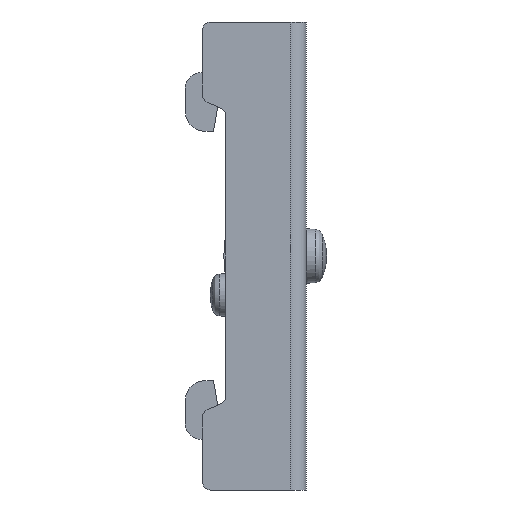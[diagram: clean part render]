
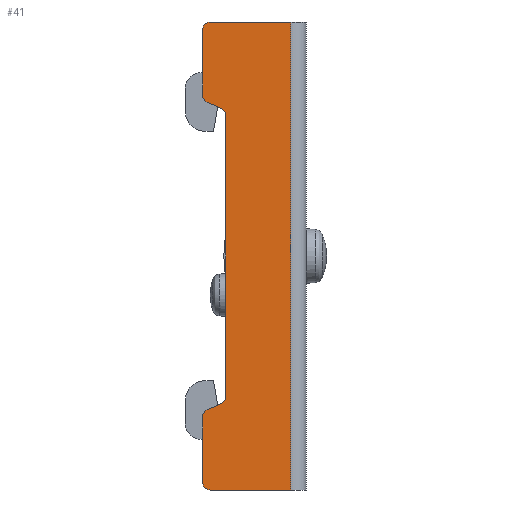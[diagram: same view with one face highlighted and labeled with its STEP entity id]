
A CAD part, left-side view. The second image highlights one B-rep face of the part: STEP entity #41.
In plain terms, the highlighted planar face has unit normal (-1, 0, 0).
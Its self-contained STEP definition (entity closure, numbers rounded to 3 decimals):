
#41=ADVANCED_FACE('',(#183),#182,.T.);
#182=PLANE('',#1499);
#183=FACE_OUTER_BOUND('',#1500,.T.);
#1496=CARTESIAN_POINT('',(-13.,-3.37,-36.));
#1497=DIRECTION('',(-1.,0.,0.));
#1498=DIRECTION('',(0.,-1.,0.));
#1499=AXIS2_PLACEMENT_3D('',#1496,#1497,#1498);
#1500=EDGE_LOOP('',(#2334,#2335,#2336,#2337,#2338,#2339,#2340,#2341,#2342,#2343,#2344,#2345,#2346,#2347));
#2334=ORIENTED_EDGE('',*,*,#3024,.F.);
#2335=ORIENTED_EDGE('',*,*,#3025,.T.);
#2336=ORIENTED_EDGE('',*,*,#3026,.T.);
#2337=ORIENTED_EDGE('',*,*,#3027,.T.);
#2338=ORIENTED_EDGE('',*,*,#3028,.F.);
#2339=ORIENTED_EDGE('',*,*,#3029,.T.);
#2340=ORIENTED_EDGE('',*,*,#3030,.T.);
#2341=ORIENTED_EDGE('',*,*,#3031,.T.);
#2342=ORIENTED_EDGE('',*,*,#3032,.T.);
#2343=ORIENTED_EDGE('',*,*,#3033,.T.);
#2344=ORIENTED_EDGE('',*,*,#3034,.T.);
#2345=ORIENTED_EDGE('',*,*,#3035,.F.);
#2346=ORIENTED_EDGE('',*,*,#3036,.T.);
#2347=ORIENTED_EDGE('',*,*,#3037,.F.);
#3024=EDGE_CURVE('',#3405,#3406,#3407,.T.);
#3025=EDGE_CURVE('',#3405,#3413,#3414,.T.);
#3026=EDGE_CURVE('',#3413,#3420,#3421,.T.);
#3027=EDGE_CURVE('',#3420,#3427,#3428,.T.);
#3028=EDGE_CURVE('',#3434,#3427,#3435,.T.);
#3029=EDGE_CURVE('',#3434,#3441,#3442,.T.);
#3030=EDGE_CURVE('',#3441,#3448,#3449,.T.);
#3031=EDGE_CURVE('',#3448,#3455,#3456,.T.);
#3032=EDGE_CURVE('',#3455,#3462,#3463,.T.);
#3033=EDGE_CURVE('',#3462,#3469,#3470,.T.);
#3034=EDGE_CURVE('',#3469,#3476,#3477,.T.);
#3035=EDGE_CURVE('',#3483,#3476,#3484,.T.);
#3036=EDGE_CURVE('',#3483,#3490,#3491,.T.);
#3037=EDGE_CURVE('',#3406,#3490,#3497,.T.);
#3405=VERTEX_POINT('',#5684);
#3406=VERTEX_POINT('',#5685);
#3407=LINE('',#5686,#5687);
#3413=VERTEX_POINT('',#5689);
#3414=CIRCLE('',#5693,1.);
#3420=VERTEX_POINT('',#5694);
#3421=LINE('',#5695,#5696);
#3427=VERTEX_POINT('',#5698);
#3428=CIRCLE('',#5702,1.);
#3434=VERTEX_POINT('',#5703);
#3435=LINE('',#5704,#5705);
#3441=VERTEX_POINT('',#5707);
#3442=LINE('',#5708,#5709);
#3448=VERTEX_POINT('',#5711);
#3449=LINE('',#5712,#5713);
#3455=VERTEX_POINT('',#5715);
#3456=CIRCLE('',#5719,1.);
#3462=VERTEX_POINT('',#5720);
#3463=LINE('',#5721,#5722);
#3469=VERTEX_POINT('',#5724);
#3470=CIRCLE('',#5728,1.);
#3476=VERTEX_POINT('',#5729);
#3477=LINE('',#5730,#5731);
#3483=VERTEX_POINT('',#5733);
#3484=CIRCLE('',#5737,1.);
#3490=VERTEX_POINT('',#5738);
#3491=LINE('',#5739,#5740);
#3497=CIRCLE('',#5745,1.);
#5684=CARTESIAN_POINT('',(-13.,-5.077,-19.73));
#5685=CARTESIAN_POINT('',(-13.,-6.923,-18.869));
#5686=CARTESIAN_POINT('',(-13.,-5.077,-19.73));
#5687=VECTOR('',#5688,2.036);
#5688=DIRECTION('',(0.,-0.906,0.423));
#5689=CARTESIAN_POINT('',(-13.,-4.5,-20.636));
#5690=CARTESIAN_POINT('',(-13.,-5.5,-20.636));
#5691=DIRECTION('',(-1.,0.,0.));
#5692=DIRECTION('',(0.,0.,1.));
#5693=AXIS2_PLACEMENT_3D('',#5690,#5691,#5692);
#5694=CARTESIAN_POINT('',(-13.,-4.5,-29.));
#5695=CARTESIAN_POINT('',(-13.,-4.5,-20.636));
#5696=VECTOR('',#5697,8.364);
#5697=DIRECTION('',(0.,0.,-1.));
#5698=CARTESIAN_POINT('',(-13.,-5.5,-30.));
#5699=CARTESIAN_POINT('',(-13.,-5.5,-29.));
#5700=DIRECTION('',(-1.,0.,0.));
#5701=DIRECTION('',(0.,0.,1.));
#5702=AXIS2_PLACEMENT_3D('',#5699,#5700,#5701);
#5703=CARTESIAN_POINT('',(-13.,-15.8,-30.));
#5704=CARTESIAN_POINT('',(-13.,-15.8,-30.));
#5705=VECTOR('',#5706,10.3);
#5706=DIRECTION('',(0.,1.,0.));
#5707=CARTESIAN_POINT('',(-13.,-15.8,30.));
#5708=CARTESIAN_POINT('',(-13.,-15.8,-30.));
#5709=VECTOR('',#5710,60.);
#5710=DIRECTION('',(0.,0.,1.));
#5711=CARTESIAN_POINT('',(-13.,-5.5,30.));
#5712=CARTESIAN_POINT('',(-13.,-15.8,30.));
#5713=VECTOR('',#5714,10.3);
#5714=DIRECTION('',(0.,1.,0.));
#5715=CARTESIAN_POINT('',(-13.,-4.5,29.));
#5716=CARTESIAN_POINT('',(-13.,-5.5,29.));
#5717=DIRECTION('',(-1.,0.,0.));
#5718=DIRECTION('',(0.,0.,1.));
#5719=AXIS2_PLACEMENT_3D('',#5716,#5717,#5718);
#5720=CARTESIAN_POINT('',(-13.,-4.5,20.636));
#5721=CARTESIAN_POINT('',(-13.,-4.5,29.));
#5722=VECTOR('',#5723,8.364);
#5723=DIRECTION('',(0.,0.,-1.));
#5724=CARTESIAN_POINT('',(-13.,-5.077,19.73));
#5725=CARTESIAN_POINT('',(-13.,-5.5,20.636));
#5726=DIRECTION('',(-1.,0.,0.));
#5727=DIRECTION('',(0.,0.,1.));
#5728=AXIS2_PLACEMENT_3D('',#5725,#5726,#5727);
#5729=CARTESIAN_POINT('',(-13.,-6.923,18.869));
#5730=CARTESIAN_POINT('',(-13.,-5.077,19.73));
#5731=VECTOR('',#5732,2.036);
#5732=DIRECTION('',(0.,-0.906,-0.423));
#5733=CARTESIAN_POINT('',(-13.,-7.5,17.963));
#5734=CARTESIAN_POINT('',(-13.,-6.5,17.963));
#5735=DIRECTION('',(-1.,0.,0.));
#5736=DIRECTION('',(0.,0.,1.));
#5737=AXIS2_PLACEMENT_3D('',#5734,#5735,#5736);
#5738=CARTESIAN_POINT('',(-13.,-7.5,-17.963));
#5739=CARTESIAN_POINT('',(-13.,-7.5,17.963));
#5740=VECTOR('',#5741,35.926);
#5741=DIRECTION('',(0.,0.,-1.));
#5742=CARTESIAN_POINT('',(-13.,-6.5,-17.963));
#5743=DIRECTION('',(-1.,0.,0.));
#5744=DIRECTION('',(0.,0.,1.));
#5745=AXIS2_PLACEMENT_3D('',#5742,#5743,#5744);
